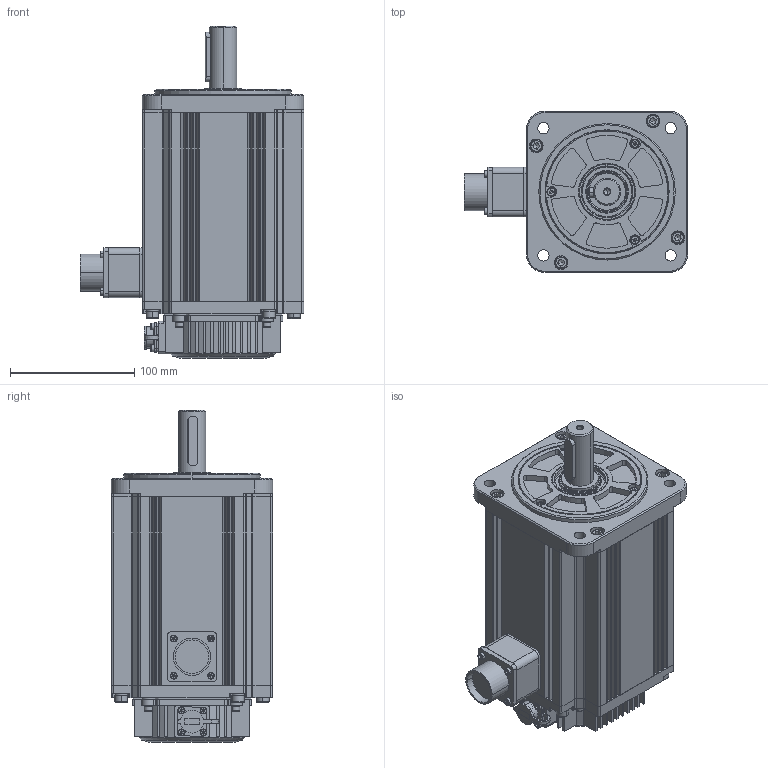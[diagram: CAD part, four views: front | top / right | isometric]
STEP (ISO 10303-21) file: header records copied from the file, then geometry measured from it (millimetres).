
FILE_DESCRIPTION (( 'STEP AP203' ), '1' );
FILE_NAME ('EMG-15(媼測湍惕掅).STEP', '2020-03-30T10:22:52', ( '' ), ( '' ), 'SwSTEP 2.0', 'SolidWorks 2018', '' );
FILE_SCHEMA (( 'CONFIG_CONTROL_DESIGN' ));
Length unit declared in the file: millimetre
Products named in the file (64): 10; 1; 12; hexagon socket head cap screws gb; 4; 11; 3; wave single coil spring lock washers gb_GB_FASTENER_WASHER_WSLW 4; 6; wave single coil spring lock washers gb; hexagon socket head cap screws gb_GB_FASTENER_SCREWS_HSHCS M4X12-NHDA; 7; wave single coil spring lock washers gb_GB_FASTENER_WASHER_WSLW 6; 8; hexagon socket head cap screws gb_GB_FASTENER_SCREWS_HSHCS M6X16-NHDA; 9; hexagon socket head cap screws gb_GB_FASTENER_SCREWS_HSHCS M3X12-NHDA; 5; 2; EMG-15(媼測湍惕掅)
Assembly tree (46 placements, depth 2):
  10
  1
  hexagon socket head cap screws gb
  hexagon socket head cap screws gb
  hexagon socket head cap screws gb
Bounding box: 180.05 x 130 x 267.5 mm (x, y, z)
Volume: 2762887.6 mm3; surface area: 333266.4 mm2
Topology: 47 solids, 48 shells, 2091 faces, 5463 edges, 3512 vertices
Faces by surface type: plane 1023, cylinder 789, cone 182, torus 68, bspline 19, sphere 10
Entity records: 57686 total; most frequent: CARTESIAN_POINT 12919, ORIENTED_EDGE 8126, DIRECTION 8093, EDGE_CURVE 4063, AXIS2_PLACEMENT_3D 2884, VERTEX_POINT 2698, VECTOR 2325, LINE 2325
